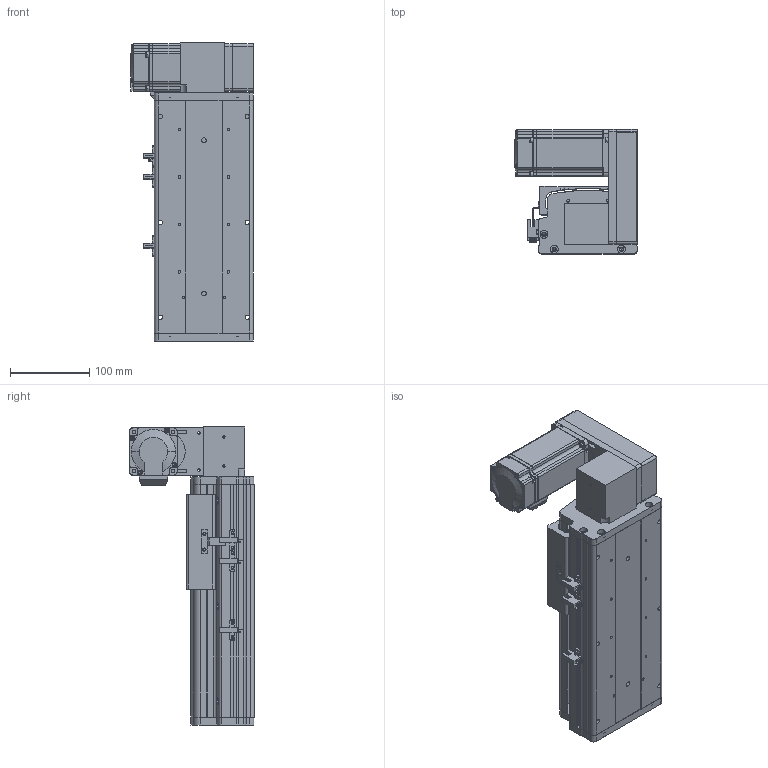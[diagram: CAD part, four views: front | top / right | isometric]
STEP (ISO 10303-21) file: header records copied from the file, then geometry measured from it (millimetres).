
FILE_DESCRIPTION (( 'STEP AP214' ), '1' );
FILE_NAME ('KSD125B-S100-MLU-CM.STEP', '2017-10-21T03:07:33', ( '微软用户' ), ( '微软中国' ), 'SwSTEP 2.0', 'SolidWorks 2014', '' );
FILE_SCHEMA (( 'AUTOMOTIVE_DESIGN' ));
Length unit declared in the file: millimetre
Products named in the file (17): 100宽马达安装板连板上下折丝杆同步带; HTPA30S3M150_A_H6_a佪裝蚚; HTPA30S3M150_A_H6_a萇儂蚚; 100宽马达安装板同步带左; KSD125模组100行程同步带-防尘盖; 125模组100行程同步带-底板; MHMD042G1CA_2_03; KSD125模组同步带-防撞垫2; 覜茼え68遵圉猾敕; U倰嫖萇假蚾璃; U倰嫖萇EEㄜSX672; KSD125模组同步带-防撞垫1; 前端板-125宽模组同步带; 125模组同步带-尾端板1; KSD125模组同步带-滑动座1; KSD125B-S100-MLU-CM; 悵誘欶奻狟殏
Assembly tree (20 placements, depth 2):
  KSD125B-S100-MLU-CM
    KSD125模组同步带-滑动座1
    125模组同步带-尾端板1
    前端板-125宽模组同步带
    KSD125模组同步带-防撞垫1
    U倰嫖萇EEㄜSX672  x3
    U倰嫖萇假蚾璃  x3
    覜茼え68遵圉猾敕
    KSD125模组同步带-防撞垫2
    MHMD042G1CA_2_03
    125模组100行程同步带-底板
    KSD125模组100行程同步带-防尘盖
    100宽马达安装板同步带左
    HTPA30S3M150_A_H6_a萇儂蚚
    HTPA30S3M150_A_H6_a佪裝蚚
    100宽马达安装板连板上下折丝杆同步带
    悵誘欶奻狟殏
Bounding box: 155 x 157.5 x 377 mm (x, y, z)
Volume: 1523567.2 mm3; surface area: 563323 mm2
Topology: 19 solids, 22 shells, 2181 faces, 6307 edges, 4166 vertices
Faces by surface type: cylinder 1340, plane 714, cone 105, bspline 22
Entity records: 76901 total; most frequent: CARTESIAN_POINT 15249, DIRECTION 11972, ORIENTED_EDGE 11134, EDGE_CURVE 5645, AXIS2_PLACEMENT_3D 4605, VERTEX_POINT 3758, VECTOR 2762, LINE 2762
